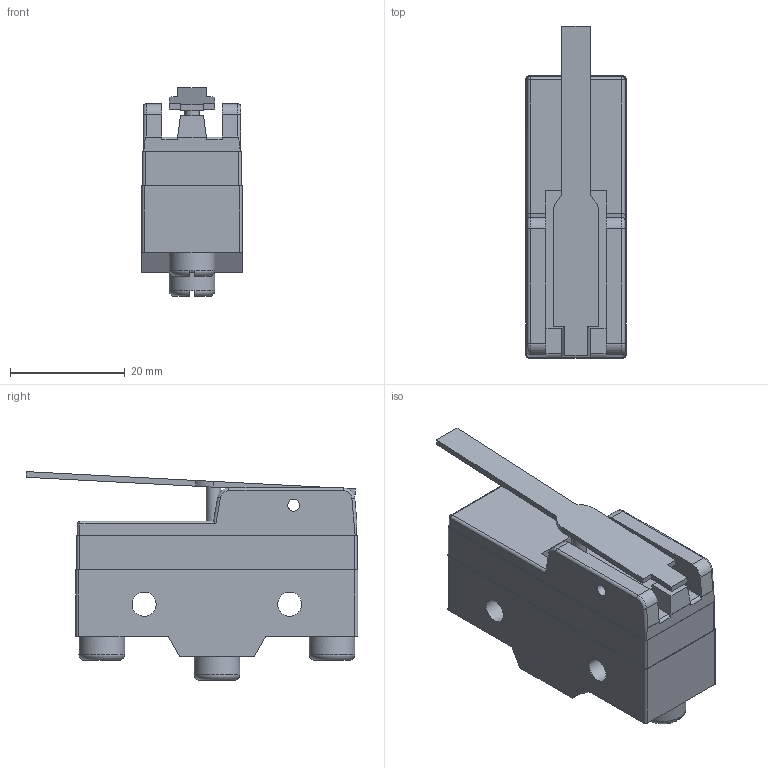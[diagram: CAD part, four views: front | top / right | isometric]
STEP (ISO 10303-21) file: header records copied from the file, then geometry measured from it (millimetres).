
FILE_DESCRIPTION(/* description */ (''),/* implementation_level */ '2;1');
FILE_NAME(/* name */ 'E:\Inventor 2016\제품 외형도\(\X2\C644B8CC\X0\) 리미트 스위치\직류용 마이크로 스위치 (Z형)\YSl2010GW-B.stp',/* time_stamp */ '2019-04-09T10:05:01+09:00',/* author */ ('Kim'),/* organization */ (''),/* preprocessor_version */ 'ST-DEVELOPER v16.1',/* originating_system */ 'Autodesk Inventor 2016',/* authorisation */ '');
FILE_SCHEMA (('AUTOMOTIVE_DESIGN { 1 0 10303 214 3 1 1 }'));
Length unit declared in the file: millimetre
Products named in the file (1): YSl2010GW-B
Bounding box: 17.5 x 57.9 x 36.45 mm (x, y, z)
Volume: 19102.2 mm3; surface area: 6965.1 mm2
Topology: 1 solids, 1 shells, 138 faces, 360 edges, 231 vertices
Faces by surface type: plane 88, cylinder 38, torus 10, sphere 2
Full cylindrical faces by diameter (mm): 2.1 x2, 2.5 x1, 4.2 x2, 8 x3
Entity records: 4354 total; most frequent: CARTESIAN_POINT 822, DIRECTION 709, ORIENTED_EDGE 696, EDGE_CURVE 348, LINE 241, VECTOR 241, AXIS2_PLACEMENT_3D 234, VERTEX_POINT 227
